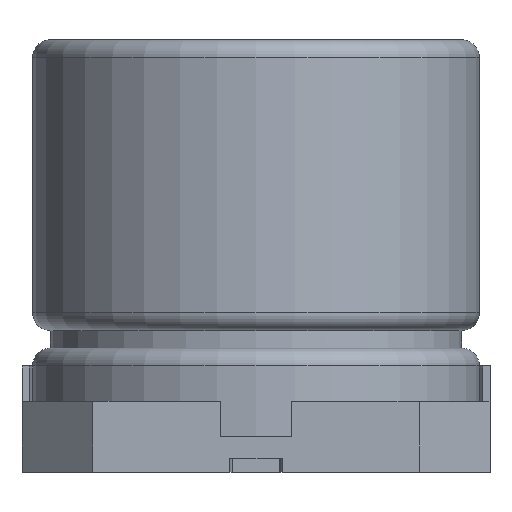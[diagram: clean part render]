
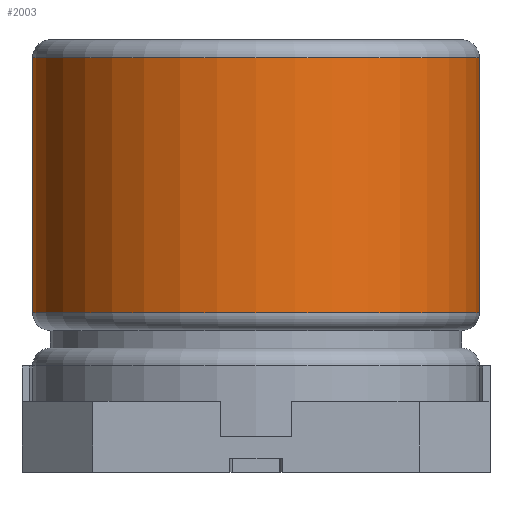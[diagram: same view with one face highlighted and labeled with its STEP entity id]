
A CAD part, left-side view. The second image highlights one B-rep face of the part: STEP entity #2003.
In plain terms, the highlighted cylindrical face has radius 3.15 mm (diameter 6.3 mm), a partial arc.
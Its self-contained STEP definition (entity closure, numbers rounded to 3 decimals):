
#1701 = CARTESIAN_POINT ( 'NONE',  ( 0., -3.15, 5.85 ) ) ;
#1702 = VERTEX_POINT ( 'NONE', #1701 ) ;
#1710 = CARTESIAN_POINT ( 'NONE',  ( 0., 3.15, 5.85 ) ) ;
#1711 = VERTEX_POINT ( 'NONE', #1710 ) ;
#1735 = CARTESIAN_POINT ( 'NONE',  ( 0., -3.15, 2.25 ) ) ;
#1736 = VERTEX_POINT ( 'NONE', #1735 ) ;
#1737 = CARTESIAN_POINT ( 'NONE',  ( 0., -3.15, 0. ) ) ;
#1738 = DIRECTION ( 'NONE',  ( 0., 0., -1. ) ) ;
#1739 = VECTOR ( 'NONE', #1738, 1000. ) ;
#1740 = LINE ( 'NONE', #1737, #1739 ) ;
#1741 = EDGE_CURVE ( 'NONE', #1702, #1736, #1740, .T. ) ;
#1743 = CARTESIAN_POINT ( 'NONE',  ( 0., 3.15, 2.25 ) ) ;
#1744 = VERTEX_POINT ( 'NONE', #1743 ) ;
#1752 = CARTESIAN_POINT ( 'NONE',  ( 0., 3.15, 0. ) ) ;
#1753 = DIRECTION ( 'NONE',  ( 0., 0., -1. ) ) ;
#1754 = VECTOR ( 'NONE', #1753, 1000. ) ;
#1755 = LINE ( 'NONE', #1752, #1754 ) ;
#1756 = EDGE_CURVE ( 'NONE', #1711, #1744, #1755, .T. ) ;
#1969 = CARTESIAN_POINT ( 'NONE',  ( 0., 0., 2.25 ) ) ;
#1970 = DIRECTION ( 'NONE',  ( 0., 0., -1. ) ) ;
#1971 = DIRECTION ( 'NONE',  ( 0., 1., 0. ) ) ;
#1972 = AXIS2_PLACEMENT_3D ( 'NONE', #1969, #1970, #1971 ) ;
#1973 = CIRCLE ( 'NONE', #1972, 3.15) ;
#1974 = EDGE_CURVE ( 'NONE', #1736, #1744, #1973, .T. ) ;
#1986 = ORIENTED_EDGE ( 'NONE', *, *, #1741, .F. ) ;
#1987 = CARTESIAN_POINT ( 'NONE',  ( 0., 0., 5.85 ) ) ;
#1988 = DIRECTION ( 'NONE',  ( 0., 0., -1. ) ) ;
#1989 = DIRECTION ( 'NONE',  ( 0., 1., 0. ) ) ;
#1990 = AXIS2_PLACEMENT_3D ( 'NONE', #1987, #1988, #1989 ) ;
#1991 = CIRCLE ( 'NONE', #1990, 3.15) ;
#1992 = EDGE_CURVE ( 'NONE', #1702, #1711, #1991, .T. ) ;
#1993 = ORIENTED_EDGE ( 'NONE', *, *, #1992, .T. ) ;
#1994 = ORIENTED_EDGE ( 'NONE', *, *, #1756, .T. ) ;
#1995 = ORIENTED_EDGE ( 'NONE', *, *, #1974, .F. ) ;
#1996 = EDGE_LOOP ( 'NONE', ( #1986, #1993, #1994, #1995 ) ) ;
#1997 = FACE_OUTER_BOUND ( 'NONE', #1996, .T. ) ;
#1998 = CARTESIAN_POINT ( 'NONE',  ( 0., 0., 0. ) ) ;
#1999 = DIRECTION ( 'NONE',  ( 0., 0., -1. ) ) ;
#2000 = DIRECTION ( 'NONE',  ( 0., 1., 0. ) ) ;
#2001 = AXIS2_PLACEMENT_3D ( 'NONE', #1998, #1999, #2000 ) ;
#2002 = CYLINDRICAL_SURFACE ( 'NONE', #2001, 3.15) ;
#2003 = ADVANCED_FACE ( 'NONE', ( #1997 ), #2002, .T. ) ;
